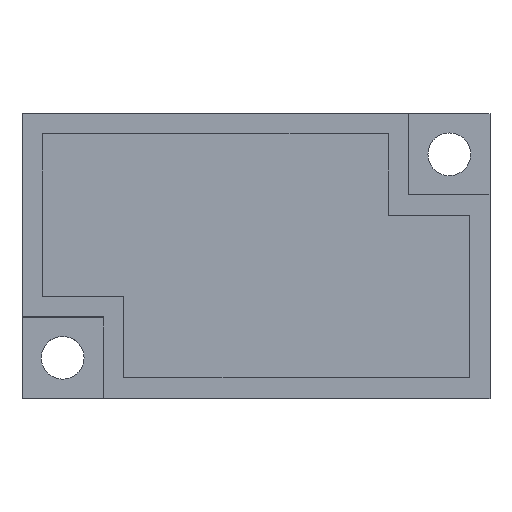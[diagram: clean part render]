
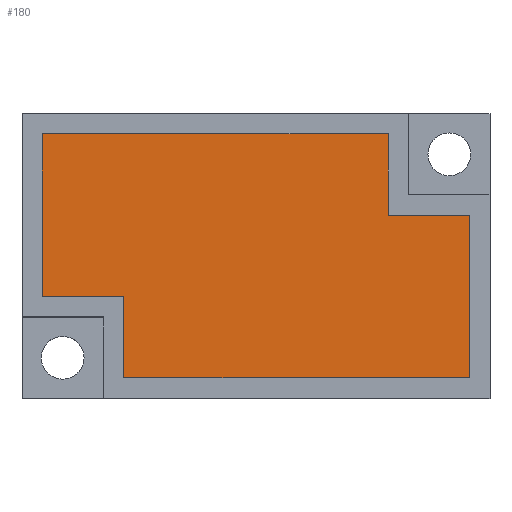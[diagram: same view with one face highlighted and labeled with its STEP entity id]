
A CAD part, top view. The second image highlights one B-rep face of the part: STEP entity #180.
In plain terms, the highlighted planar face has unit normal (0, 0, 1).
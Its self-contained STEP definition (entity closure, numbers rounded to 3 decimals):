
#143=FACE_OUTER_BOUND('',#264,.T.);
#180=ADVANCED_FACE('',(#143),#211,.F.);
#211=PLANE('',#760);
#264=EDGE_LOOP('',(#414,#415,#416,#417,#418,#419,#420,#421));
#414=ORIENTED_EDGE('',*,*,#546,.F.);
#415=ORIENTED_EDGE('',*,*,#567,.F.);
#416=ORIENTED_EDGE('',*,*,#564,.F.);
#417=ORIENTED_EDGE('',*,*,#561,.F.);
#418=ORIENTED_EDGE('',*,*,#558,.F.);
#419=ORIENTED_EDGE('',*,*,#555,.F.);
#420=ORIENTED_EDGE('',*,*,#552,.F.);
#421=ORIENTED_EDGE('',*,*,#549,.F.);
#472=VERTEX_POINT('',#1042);
#473=VERTEX_POINT('',#1044);
#475=VERTEX_POINT('',#1050);
#477=VERTEX_POINT('',#1056);
#479=VERTEX_POINT('',#1062);
#481=VERTEX_POINT('',#1068);
#483=VERTEX_POINT('',#1074);
#485=VERTEX_POINT('',#1080);
#546=EDGE_CURVE('',#472,#473,#624,.T.);
#549=EDGE_CURVE('',#473,#475,#627,.T.);
#552=EDGE_CURVE('',#475,#477,#630,.T.);
#555=EDGE_CURVE('',#477,#479,#633,.T.);
#558=EDGE_CURVE('',#479,#481,#636,.T.);
#561=EDGE_CURVE('',#481,#483,#639,.T.);
#564=EDGE_CURVE('',#483,#485,#642,.T.);
#567=EDGE_CURVE('',#485,#472,#645,.T.);
#624=LINE('',#1043,#702);
#627=LINE('',#1049,#705);
#630=LINE('',#1055,#708);
#633=LINE('',#1061,#711);
#636=LINE('',#1067,#714);
#639=LINE('',#1073,#717);
#642=LINE('',#1079,#720);
#645=LINE('',#1084,#723);
#702=VECTOR('',#874,1.);
#705=VECTOR('',#879,1.);
#708=VECTOR('',#884,1.);
#711=VECTOR('',#889,1.);
#714=VECTOR('',#894,1.);
#717=VECTOR('',#899,1.);
#720=VECTOR('',#904,1.);
#723=VECTOR('',#909,1.);
#760=AXIS2_PLACEMENT_3D('',#1086,#912,#913);
#874=DIRECTION('',(1.,0.,0.));
#879=DIRECTION('',(0.,-1.,0.));
#884=DIRECTION('',(1.,0.,0.));
#889=DIRECTION('',(0.,-1.,0.));
#894=DIRECTION('',(-1.,0.,0.));
#899=DIRECTION('',(0.,1.,0.));
#904=DIRECTION('',(-1.,0.,0.));
#909=DIRECTION('',(0.,1.,0.));
#912=DIRECTION('',(0.,0.,-1.));
#913=DIRECTION('',(-1.,0.,0.));
#1042=CARTESIAN_POINT('',(1.,13.,5.));
#1043=CARTESIAN_POINT('',(1.,13.,5.));
#1044=CARTESIAN_POINT('',(18.,13.,5.));
#1049=CARTESIAN_POINT('',(18.,13.,5.));
#1050=CARTESIAN_POINT('',(18.,9.,5.));
#1055=CARTESIAN_POINT('',(18.,9.,5.));
#1056=CARTESIAN_POINT('',(22.,9.,5.));
#1061=CARTESIAN_POINT('',(22.,9.,5.));
#1062=CARTESIAN_POINT('',(22.,1.,5.));
#1067=CARTESIAN_POINT('',(22.,1.,5.));
#1068=CARTESIAN_POINT('',(5.,1.,5.));
#1073=CARTESIAN_POINT('',(5.,1.,5.));
#1074=CARTESIAN_POINT('',(5.,5.,5.));
#1079=CARTESIAN_POINT('',(5.,5.,5.));
#1080=CARTESIAN_POINT('',(1.,5.,5.));
#1084=CARTESIAN_POINT('',(1.,5.,5.));
#1086=CARTESIAN_POINT('',(18.,13.,5.));
